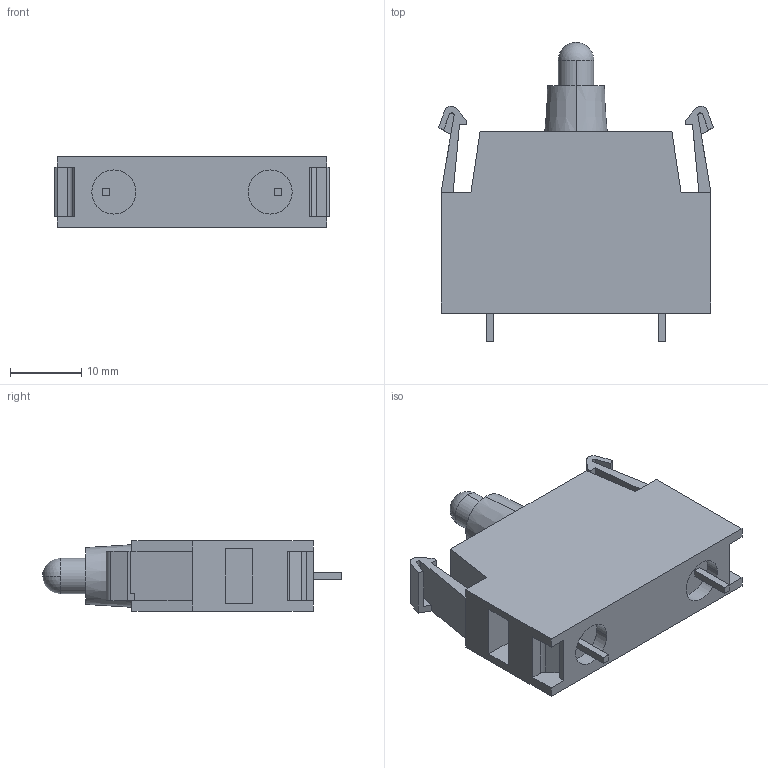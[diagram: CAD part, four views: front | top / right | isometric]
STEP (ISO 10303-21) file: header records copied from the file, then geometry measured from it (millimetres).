
FILE_DESCRIPTION (( 'STEP AP203' ), '1' );
FILE_NAME ('ZF_STEP_E2_LPxxxS0_A19.STEP', '2019-04-11T07:17:59', ( 'utente' ), ( 'Microsoft' ), 'SwSTEP 2.0', 'SolidWorks 2014', '' );
FILE_SCHEMA (( 'CONFIG_CONTROL_DESIGN' ));
Length unit declared in the file: millimetre
Products named in the file (1): ZF_STEP_E2_LPxxxS0_A19
Bounding box: 38.69 x 42.1 x 9.9 mm (x, y, z)
Volume: 8541.9 mm3; surface area: 4490 mm2
Topology: 1 solids, 1 shells, 86 faces, 227 edges, 149 vertices
Faces by surface type: plane 69, cylinder 13, sphere 2, cone 2
Entity records: 2696 total; most frequent: CARTESIAN_POINT 461, ORIENTED_EDGE 450, DIRECTION 433, EDGE_CURVE 225, VECTOR 191, LINE 191, VERTEX_POINT 149, AXIS2_PLACEMENT_3D 121
